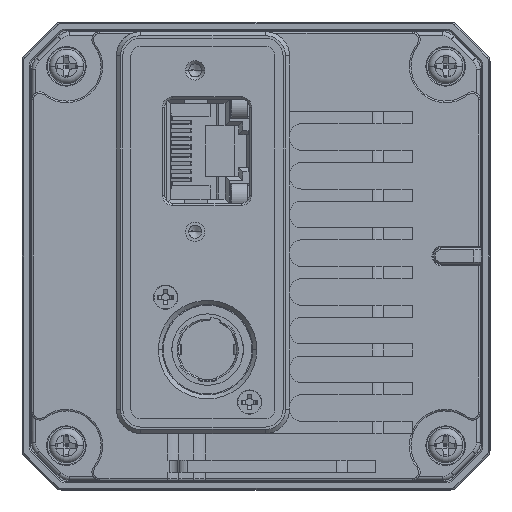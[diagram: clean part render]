
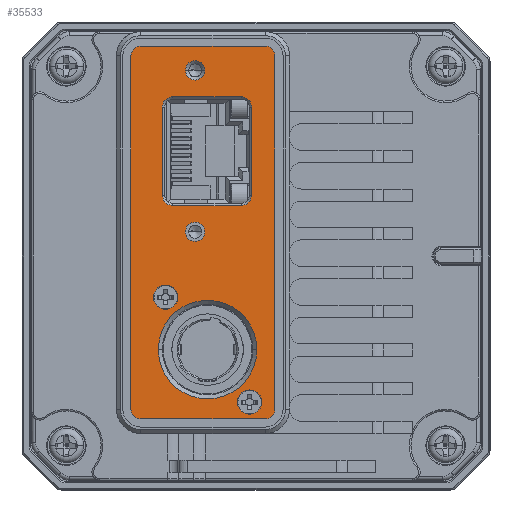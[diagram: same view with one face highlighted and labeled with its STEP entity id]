
A CAD part, front view. The second image highlights one B-rep face of the part: STEP entity #35533.
In plain terms, the highlighted planar face has unit normal (0, -1, 0).
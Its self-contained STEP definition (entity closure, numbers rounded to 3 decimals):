
#3410=DIRECTION('',(0.,0.,1.));
#3411=VECTOR('',#3410,10.91);
#3412=CARTESIAN_POINT('',(-11.6,-64.04,
7.545));
#3413=LINE('',#3412,#3411);
#3431=DIRECTION('',(-1.,0.,0.));
#3432=VECTOR('',#3431,8.45);
#3433=CARTESIAN_POINT('',(-1.85,-64.04,
6.245));
#3434=LINE('',#3433,#3432);
#3468=DIRECTION('',(0.,0.,-1.));
#3469=VECTOR('',#3468,10.91);
#3470=CARTESIAN_POINT('',(-0.55,-64.04,
18.455));
#3471=LINE('',#3470,#3469);
#3497=DIRECTION('',(1.,0.,0.));
#3498=VECTOR('',#3497,8.45);
#3499=CARTESIAN_POINT('',(-10.3,-64.04,
19.755));
#3500=LINE('',#3499,#3498);
#3514=CARTESIAN_POINT('',(-14.3,-64.04,-19.));
#3515=DIRECTION('',(0.,1.,0.));
#3516=DIRECTION('',(0.,0.,-1.));
#3517=AXIS2_PLACEMENT_3D('',#3514,#3515,#3516);
#3519=CARTESIAN_POINT('',(-14.3,-64.04,24.8));
#3520=DIRECTION('',(0.,1.,0.));
#3521=DIRECTION('',(-1.,0.,0.));
#3522=AXIS2_PLACEMENT_3D('',#3519,#3520,#3521);
#3524=CARTESIAN_POINT('',(1.15,-64.04,24.8));
#3525=DIRECTION('',(0.,1.,0.));
#3526=DIRECTION('',(0.,0.,1.));
#3527=AXIS2_PLACEMENT_3D('',#3524,#3525,#3526);
#3529=CARTESIAN_POINT('',(1.15,-64.04,-19.));
#3530=DIRECTION('',(0.,1.,0.));
#3531=DIRECTION('',(1.,0.,0.));
#3532=AXIS2_PLACEMENT_3D('',#3529,#3530,#3531);
#3534=CARTESIAN_POINT('',(-1.85,-64.04,7.545));
#3535=DIRECTION('',(0.,-1.,0.));
#3536=DIRECTION('',(0.,0.,-1.));
#3537=AXIS2_PLACEMENT_3D('',#3534,#3535,#3536);
#3539=CARTESIAN_POINT('',(-1.85,-64.04,18.455));
#3540=DIRECTION('',(0.,-1.,0.));
#3541=DIRECTION('',(1.,0.,0.));
#3542=AXIS2_PLACEMENT_3D('',#3539,#3540,#3541);
#3544=CARTESIAN_POINT('',(-10.3,-64.04,18.455));
#3545=DIRECTION('',(0.,-1.,0.));
#3546=DIRECTION('',(0.,0.,1.));
#3547=AXIS2_PLACEMENT_3D('',#3544,#3545,#3546);
#3549=CARTESIAN_POINT('',(-10.3,-64.04,7.545));
#3550=DIRECTION('',(0.,-1.,0.));
#3551=DIRECTION('',(-1.,0.,0.));
#3552=AXIS2_PLACEMENT_3D('',#3549,#3550,#3551);
#3554=CARTESIAN_POINT('',(-0.8,-64.04,-18.1));
#3555=DIRECTION('',(0.,-1.,0.));
#3556=DIRECTION('',(1.,0.,0.));
#3557=AXIS2_PLACEMENT_3D('',#3554,#3555,#3556);
#3559=CARTESIAN_POINT('',(-0.8,-64.04,-18.1));
#3560=DIRECTION('',(0.,-1.,0.));
#3561=DIRECTION('',(-1.,0.,0.));
#3562=AXIS2_PLACEMENT_3D('',#3559,#3560,#3561);
#3564=CARTESIAN_POINT('',(-11.2,-64.04,-5.1));
#3565=DIRECTION('',(0.,-1.,0.));
#3566=DIRECTION('',(1.,0.,0.));
#3567=AXIS2_PLACEMENT_3D('',#3564,#3565,#3566);
#3569=CARTESIAN_POINT('',(-11.2,-64.04,-5.1));
#3570=DIRECTION('',(0.,-1.,0.));
#3571=DIRECTION('',(-1.,0.,0.));
#3572=AXIS2_PLACEMENT_3D('',#3569,#3570,#3571);
#3574=CARTESIAN_POINT('',(-6.,-64.04,-11.6));
#3575=DIRECTION('',(0.,-1.,0.));
#3576=DIRECTION('',(1.,0.,0.));
#3577=AXIS2_PLACEMENT_3D('',#3574,#3575,#3576);
#3579=CARTESIAN_POINT('',(-6.,-64.04,-11.6));
#3580=DIRECTION('',(0.,-1.,0.));
#3581=DIRECTION('',(-1.,0.,0.));
#3582=AXIS2_PLACEMENT_3D('',#3579,#3580,#3581);
#3584=CARTESIAN_POINT('',(-6.,-64.04,-11.6));
#3585=DIRECTION('',(0.,-1.,0.));
#3586=DIRECTION('',(0.,0.,-1.));
#3587=AXIS2_PLACEMENT_3D('',#3584,#3585,#3586);
#3589=CARTESIAN_POINT('',(-7.545,-64.04,3.));
#3590=DIRECTION('',(0.,-1.,0.));
#3591=DIRECTION('',(0.,0.,-1.));
#3592=AXIS2_PLACEMENT_3D('',#3589,#3590,#3591);
#3594=CARTESIAN_POINT('',(-7.545,-64.04,3.));
#3595=DIRECTION('',(0.,-1.,0.));
#3596=DIRECTION('',(0.,0.,1.));
#3597=AXIS2_PLACEMENT_3D('',#3594,#3595,#3596);
#3599=CARTESIAN_POINT('',(-7.545,-64.04,23.));
#3600=DIRECTION('',(0.,-1.,0.));
#3601=DIRECTION('',(0.,0.,-1.));
#3602=AXIS2_PLACEMENT_3D('',#3599,#3600,#3601);
#3604=CARTESIAN_POINT('',(-7.545,-64.04,23.));
#3605=DIRECTION('',(0.,-1.,0.));
#3606=DIRECTION('',(0.,0.,1.));
#3607=AXIS2_PLACEMENT_3D('',#3604,#3605,#3606);
#3609=DIRECTION('',(1.,0.,0.));
#3610=VECTOR('',#3609,15.45);
#3611=CARTESIAN_POINT('',(-14.3,-64.04,-20.2));
#3612=LINE('',#3611,#3610);
#3621=DIRECTION('',(0.,0.,1.));
#3622=VECTOR('',#3621,43.8);
#3623=CARTESIAN_POINT('',(2.35,-64.04,-19.));
#3624=LINE('',#3623,#3622);
#3637=DIRECTION('',(-1.,0.,0.));
#3638=VECTOR('',#3637,15.45);
#3639=CARTESIAN_POINT('',(1.15,-64.04,26.));
#3640=LINE('',#3639,#3638);
#3653=DIRECTION('',(0.,0.,-1.));
#3654=VECTOR('',#3653,43.8);
#3655=CARTESIAN_POINT('',(-15.5,-64.04,24.8));
#3656=LINE('',#3655,#3654);
#26593=CARTESIAN_POINT('',(-1.85,-64.04,
6.245));
#26594=CARTESIAN_POINT('',(-10.3,-64.04,
6.245));
#26595=VERTEX_POINT('',#26593);
#26596=VERTEX_POINT('',#26594);
#26597=CARTESIAN_POINT('',(-0.55,-64.04,7.545));
#26598=VERTEX_POINT('',#26597);
#26599=CARTESIAN_POINT('',(-0.55,-64.04,
18.455));
#26600=VERTEX_POINT('',#26599);
#26601=CARTESIAN_POINT('',(-1.85,-64.04,19.755));
#26602=VERTEX_POINT('',#26601);
#26603=CARTESIAN_POINT('',(-10.3,-64.04,
19.755));
#26604=VERTEX_POINT('',#26603);
#26605=CARTESIAN_POINT('',(-11.6,-64.04,18.455));
#26606=VERTEX_POINT('',#26605);
#26607=CARTESIAN_POINT('',(-11.6,-64.04,
7.545));
#26608=VERTEX_POINT('',#26607);
#26609=CARTESIAN_POINT('',(0.7,-64.04,-18.1));
#26610=CARTESIAN_POINT('',(-2.3,-64.04,-18.1));
#26611=VERTEX_POINT('',#26609);
#26612=VERTEX_POINT('',#26610);
#26613=CARTESIAN_POINT('',(-9.7,-64.04,-5.1));
#26614=CARTESIAN_POINT('',(-12.7,-64.04,-5.1));
#26615=VERTEX_POINT('',#26613);
#26616=VERTEX_POINT('',#26614);
#26617=CARTESIAN_POINT('',(-14.3,-64.04,-20.2));
#26618=CARTESIAN_POINT('',(1.15,-64.04,-20.2));
#26619=VERTEX_POINT('',#26617);
#26620=VERTEX_POINT('',#26618);
#26621=CARTESIAN_POINT('',(-15.5,-64.04,-19.));
#26622=VERTEX_POINT('',#26621);
#26623=CARTESIAN_POINT('',(-15.5,-64.04,24.8));
#26624=VERTEX_POINT('',#26623);
#26625=CARTESIAN_POINT('',(-14.3,-64.04,26.));
#26626=VERTEX_POINT('',#26625);
#26627=CARTESIAN_POINT('',(1.15,-64.04,26.));
#26628=VERTEX_POINT('',#26627);
#26629=CARTESIAN_POINT('',(2.35,-64.04,24.8));
#26630=VERTEX_POINT('',#26629);
#26631=CARTESIAN_POINT('',(2.35,-64.04,-19.));
#26632=VERTEX_POINT('',#26631);
#26647=CARTESIAN_POINT('',(0.1,-64.04,-11.6));
#26648=CARTESIAN_POINT('',(-12.1,-64.04,-11.6));
#26649=VERTEX_POINT('',#26647);
#26650=VERTEX_POINT('',#26648);
#26651=CARTESIAN_POINT('',(-6.,-64.04,-17.7));
#26652=VERTEX_POINT('',#26651);
#26653=CARTESIAN_POINT('',(-7.545,-64.04,1.8));
#26654=CARTESIAN_POINT('',(-7.545,-64.04,4.2));
#26655=VERTEX_POINT('',#26653);
#26656=VERTEX_POINT('',#26654);
#26657=CARTESIAN_POINT('',(-7.545,-64.04,21.8));
#26658=CARTESIAN_POINT('',(-7.545,-64.04,24.2));
#26659=VERTEX_POINT('',#26657);
#26660=VERTEX_POINT('',#26658);
#35468=CARTESIAN_POINT('',(-6.575,-64.04,2.9));
#35469=DIRECTION('',(0.,1.,0.));
#35470=DIRECTION('',(-1.,0.,0.));
#35471=AXIS2_PLACEMENT_3D('',#35468,#35469,#35470);
#35472=PLANE('',#35471);
#35474=ORIENTED_EDGE('',*,*,#35473,.F.);
#35476=ORIENTED_EDGE('',*,*,#35475,.T.);
#35478=ORIENTED_EDGE('',*,*,#35477,.F.);
#35480=ORIENTED_EDGE('',*,*,#35479,.T.);
#35482=ORIENTED_EDGE('',*,*,#35481,.F.);
#35484=ORIENTED_EDGE('',*,*,#35483,.T.);
#35486=ORIENTED_EDGE('',*,*,#35485,.F.);
#35488=ORIENTED_EDGE('',*,*,#35487,.T.);
#35489=EDGE_LOOP('',(#35474,#35476,#35478,#35480,#35482,#35484,#35486,#35488));
#35490=FACE_OUTER_BOUND('',#35489,.F.);
#35491=ORIENTED_EDGE('',*,*,#35324,.F.);
#35492=ORIENTED_EDGE('',*,*,#35339,.T.);
#35493=ORIENTED_EDGE('',*,*,#35380,.F.);
#35494=ORIENTED_EDGE('',*,*,#35395,.T.);
#35495=ORIENTED_EDGE('',*,*,#35436,.F.);
#35496=ORIENTED_EDGE('',*,*,#35450,.T.);
#35497=ORIENTED_EDGE('',*,*,#35267,.F.);
#35498=ORIENTED_EDGE('',*,*,#35283,.T.);
#35499=EDGE_LOOP('',(#35491,#35492,#35493,#35494,#35495,#35496,#35497,#35498));
#35500=FACE_BOUND('',#35499,.F.);
#35502=ORIENTED_EDGE('',*,*,#35501,.T.);
#35504=ORIENTED_EDGE('',*,*,#35503,.T.);
#35505=EDGE_LOOP('',(#35502,#35504));
#35506=FACE_BOUND('',#35505,.F.);
#35508=ORIENTED_EDGE('',*,*,#35507,.T.);
#35510=ORIENTED_EDGE('',*,*,#35509,.T.);
#35511=EDGE_LOOP('',(#35508,#35510));
#35512=FACE_BOUND('',#35511,.F.);
#35514=ORIENTED_EDGE('',*,*,#35513,.T.);
#35516=ORIENTED_EDGE('',*,*,#35515,.T.);
#35518=ORIENTED_EDGE('',*,*,#35517,.T.);
#35519=EDGE_LOOP('',(#35514,#35516,#35518));
#35520=FACE_BOUND('',#35519,.F.);
#35522=ORIENTED_EDGE('',*,*,#35521,.T.);
#35524=ORIENTED_EDGE('',*,*,#35523,.T.);
#35525=EDGE_LOOP('',(#35522,#35524));
#35526=FACE_BOUND('',#35525,.F.);
#35528=ORIENTED_EDGE('',*,*,#35527,.T.);
#35530=ORIENTED_EDGE('',*,*,#35529,.T.);
#35531=EDGE_LOOP('',(#35528,#35530));
#35532=FACE_BOUND('',#35531,.F.);
#35533=ADVANCED_FACE('',(#35490,#35500,#35506,#35512,#35520,#35526,#35532),
#35472,.F.);
#3518=CIRCLE('',#3517,1.2);
#3523=CIRCLE('',#3522,1.2);
#3528=CIRCLE('',#3527,1.2);
#3533=CIRCLE('',#3532,1.2);
#3538=CIRCLE('',#3537,1.3);
#3543=CIRCLE('',#3542,1.3);
#3548=CIRCLE('',#3547,1.3);
#3553=CIRCLE('',#3552,1.3);
#3558=CIRCLE('',#3557,1.5);
#3563=CIRCLE('',#3562,1.5);
#3568=CIRCLE('',#3567,1.5);
#3573=CIRCLE('',#3572,1.5);
#3578=CIRCLE('',#3577,6.1);
#3583=CIRCLE('',#3582,6.1);
#3588=CIRCLE('',#3587,6.1);
#3593=CIRCLE('',#3592,1.2);
#3598=CIRCLE('',#3597,1.2);
#3603=CIRCLE('',#3602,1.2);
#3608=CIRCLE('',#3607,1.2);
#35267=EDGE_CURVE('',#26608,#26606,#3413,.T.);
#35283=EDGE_CURVE('',#26608,#26596,#3553,.T.);
#35324=EDGE_CURVE('',#26595,#26596,#3434,.T.);
#35339=EDGE_CURVE('',#26595,#26598,#3538,.T.);
#35380=EDGE_CURVE('',#26600,#26598,#3471,.T.);
#35395=EDGE_CURVE('',#26600,#26602,#3543,.T.);
#35436=EDGE_CURVE('',#26604,#26602,#3500,.T.);
#35450=EDGE_CURVE('',#26604,#26606,#3548,.T.);
#35473=EDGE_CURVE('',#26619,#26620,#3612,.T.);
#35475=EDGE_CURVE('',#26619,#26622,#3518,.T.);
#35477=EDGE_CURVE('',#26624,#26622,#3656,.T.);
#35479=EDGE_CURVE('',#26624,#26626,#3523,.T.);
#35481=EDGE_CURVE('',#26628,#26626,#3640,.T.);
#35483=EDGE_CURVE('',#26628,#26630,#3528,.T.);
#35485=EDGE_CURVE('',#26632,#26630,#3624,.T.);
#35487=EDGE_CURVE('',#26632,#26620,#3533,.T.);
#35501=EDGE_CURVE('',#26611,#26612,#3558,.T.);
#35503=EDGE_CURVE('',#26612,#26611,#3563,.T.);
#35507=EDGE_CURVE('',#26615,#26616,#3568,.T.);
#35509=EDGE_CURVE('',#26616,#26615,#3573,.T.);
#35513=EDGE_CURVE('',#26649,#26650,#3578,.T.);
#35515=EDGE_CURVE('',#26650,#26652,#3583,.T.);
#35517=EDGE_CURVE('',#26652,#26649,#3588,.T.);
#35521=EDGE_CURVE('',#26655,#26656,#3593,.T.);
#35523=EDGE_CURVE('',#26656,#26655,#3598,.T.);
#35527=EDGE_CURVE('',#26659,#26660,#3603,.T.);
#35529=EDGE_CURVE('',#26660,#26659,#3608,.T.);
